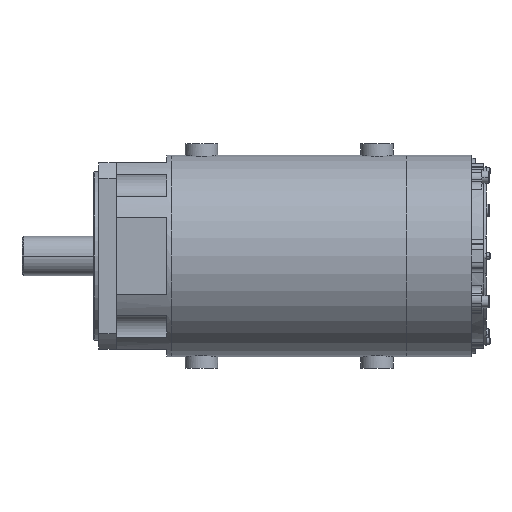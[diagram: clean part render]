
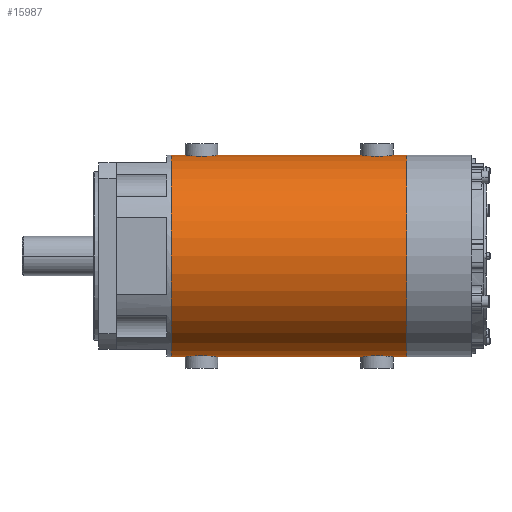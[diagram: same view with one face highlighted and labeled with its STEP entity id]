
A CAD part, front view. The second image highlights one B-rep face of the part: STEP entity #15987.
In plain terms, the highlighted cylindrical face has radius 108 mm (diameter 216 mm), a partial arc.
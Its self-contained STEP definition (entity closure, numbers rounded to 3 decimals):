
#11780=CARTESIAN_POINT('',(120.,0.,108.));
#11781=CARTESIAN_POINT('',(120.,-0.871,108.));
#11782=CARTESIAN_POINT('',(119.786,-2.559,
107.98));
#11783=CARTESIAN_POINT('',(118.758,-5.068,
107.889));
#11784=CARTESIAN_POINT('',(117.162,-7.136,
107.769));
#11785=CARTESIAN_POINT('',(115.096,-8.742,
107.648));
#11786=CARTESIAN_POINT('',(112.586,-9.783,
107.557));
#11787=CARTESIAN_POINT('',(109.994,-10.109,
107.526));
#11788=CARTESIAN_POINT('',(107.412,-9.781,
107.557));
#11789=CARTESIAN_POINT('',(104.899,-8.741,
107.649));
#11790=CARTESIAN_POINT('',(102.821,-7.118,
107.77));
#11791=CARTESIAN_POINT('',(101.239,-5.06,
107.89));
#11792=CARTESIAN_POINT('',(100.214,-2.558,
107.98));
#11793=CARTESIAN_POINT('',(100.,-0.871,108.));
#11794=CARTESIAN_POINT('',(100.,0.,108.));
#11796=CARTESIAN_POINT('',(308.,0.,108.));
#11797=CARTESIAN_POINT('',(308.,-0.871,108.));
#11798=CARTESIAN_POINT('',(307.786,-2.559,
107.98));
#11799=CARTESIAN_POINT('',(306.758,-5.068,
107.889));
#11800=CARTESIAN_POINT('',(305.162,-7.136,
107.769));
#11801=CARTESIAN_POINT('',(303.096,-8.742,
107.648));
#11802=CARTESIAN_POINT('',(300.586,-9.783,
107.557));
#11803=CARTESIAN_POINT('',(297.994,-10.109,
107.526));
#11804=CARTESIAN_POINT('',(295.412,-9.781,
107.557));
#11805=CARTESIAN_POINT('',(292.899,-8.741,
107.649));
#11806=CARTESIAN_POINT('',(290.821,-7.118,
107.77));
#11807=CARTESIAN_POINT('',(289.239,-5.06,
107.89));
#11808=CARTESIAN_POINT('',(288.214,-2.558,
107.98));
#11809=CARTESIAN_POINT('',(288.,-0.871,108.));
#11810=CARTESIAN_POINT('',(288.,0.,108.));
#11812=CARTESIAN_POINT('',(330.,0.,0.));
#11813=DIRECTION('',(1.,0.,0.));
#11814=DIRECTION('',(0.,0.,1.));
#11815=AXIS2_PLACEMENT_3D('',#11812,#11813,#11814);
#11817=DIRECTION('',(-1.,0.,0.));
#11818=VECTOR('',#11817,22.);
#11819=CARTESIAN_POINT('',(330.,0.,-108.));
#11820=LINE('',#11819,#11818);
#11821=CARTESIAN_POINT('',(288.,0.,-108.));
#11822=CARTESIAN_POINT('',(288.,-0.871,-108.));
#11823=CARTESIAN_POINT('',(288.214,-2.557,
-107.98));
#11824=CARTESIAN_POINT('',(289.238,-5.059,
-107.89));
#11825=CARTESIAN_POINT('',(290.821,-7.118,
-107.77));
#11826=CARTESIAN_POINT('',(292.898,-8.74,
-107.649));
#11827=CARTESIAN_POINT('',(295.411,-9.781,
-107.557));
#11828=CARTESIAN_POINT('',(297.995,-10.109,
-107.526));
#11829=CARTESIAN_POINT('',(300.585,-9.783,
-107.557));
#11830=CARTESIAN_POINT('',(303.096,-8.742,
-107.648));
#11831=CARTESIAN_POINT('',(305.162,-7.135,
-107.769));
#11832=CARTESIAN_POINT('',(306.758,-5.068,
-107.889));
#11833=CARTESIAN_POINT('',(307.786,-2.559,
-107.98));
#11834=CARTESIAN_POINT('',(308.,-0.871,-108.));
#11835=CARTESIAN_POINT('',(308.,0.,-108.));
#11837=DIRECTION('',(-1.,0.,0.));
#11838=VECTOR('',#11837,168.);
#11839=CARTESIAN_POINT('',(288.,0.,-108.));
#11840=LINE('',#11839,#11838);
#11841=CARTESIAN_POINT('',(100.,0.,-108.));
#11842=CARTESIAN_POINT('',(100.,-0.871,-108.));
#11843=CARTESIAN_POINT('',(100.214,-2.557,
-107.98));
#11844=CARTESIAN_POINT('',(101.238,-5.059,
-107.89));
#11845=CARTESIAN_POINT('',(102.821,-7.118,
-107.77));
#11846=CARTESIAN_POINT('',(104.898,-8.74,
-107.649));
#11847=CARTESIAN_POINT('',(107.411,-9.781,
-107.557));
#11848=CARTESIAN_POINT('',(109.995,-10.109,
-107.526));
#11849=CARTESIAN_POINT('',(112.585,-9.783,
-107.557));
#11850=CARTESIAN_POINT('',(115.096,-8.742,
-107.648));
#11851=CARTESIAN_POINT('',(117.162,-7.135,
-107.769));
#11852=CARTESIAN_POINT('',(118.758,-5.068,
-107.889));
#11853=CARTESIAN_POINT('',(119.786,-2.559,
-107.98));
#11854=CARTESIAN_POINT('',(120.,-0.871,-108.));
#11855=CARTESIAN_POINT('',(120.,0.,-108.));
#11857=DIRECTION('',(-1.,0.,0.));
#11858=VECTOR('',#11857,22.);
#11859=CARTESIAN_POINT('',(100.,0.,-108.));
#11860=LINE('',#11859,#11858);
#11861=CARTESIAN_POINT('',(78.,0.,0.));
#11862=DIRECTION('',(-1.,0.,0.));
#11863=DIRECTION('',(0.,0.,-1.));
#11864=AXIS2_PLACEMENT_3D('',#11861,#11862,#11863);
#15541=DIRECTION('',(-1.,0.,0.));
#15542=VECTOR('',#15541,22.);
#15543=CARTESIAN_POINT('',(100.,0.,108.));
#15544=LINE('',#15543,#15542);
#15587=DIRECTION('',(-1.,0.,0.));
#15588=VECTOR('',#15587,22.);
#15589=CARTESIAN_POINT('',(330.,0.,108.));
#15590=LINE('',#15589,#15588);
#15607=DIRECTION('',(-1.,0.,0.));
#15608=VECTOR('',#15607,168.);
#15609=CARTESIAN_POINT('',(288.,0.,108.));
#15610=LINE('',#15609,#15608);
#15647=CARTESIAN_POINT('',(330.,0.,-108.));
#15648=CARTESIAN_POINT('',(330.,0.,108.));
#15649=VERTEX_POINT('',#15647);
#15650=VERTEX_POINT('',#15648);
#15651=CARTESIAN_POINT('',(78.,0.,-108.));
#15652=CARTESIAN_POINT('',(78.,0.,108.));
#15653=VERTEX_POINT('',#15651);
#15654=VERTEX_POINT('',#15652);
#15932=VERTEX_POINT('',#11841);
#15933=VERTEX_POINT('',#11855);
#15934=VERTEX_POINT('',#11821);
#15935=VERTEX_POINT('',#11835);
#15940=CARTESIAN_POINT('',(120.,0.,108.));
#15942=VERTEX_POINT('',#15940);
#15944=CARTESIAN_POINT('',(100.,0.,108.));
#15946=VERTEX_POINT('',#15944);
#15948=CARTESIAN_POINT('',(308.,0.,108.));
#15950=VERTEX_POINT('',#15948);
#15952=CARTESIAN_POINT('',(288.,0.,108.));
#15954=VERTEX_POINT('',#15952);
#15956=CARTESIAN_POINT('',(330.,0.,0.));
#15957=DIRECTION('',(-1.,0.,0.));
#15958=DIRECTION('',(0.,0.,-1.));
#15959=AXIS2_PLACEMENT_3D('',#15956,#15957,#15958);
#15960=CYLINDRICAL_SURFACE('',#15959,108.);
#15962=ORIENTED_EDGE('',*,*,#15961,.F.);
#15964=ORIENTED_EDGE('',*,*,#15963,.F.);
#15966=ORIENTED_EDGE('',*,*,#15965,.F.);
#15968=ORIENTED_EDGE('',*,*,#15967,.F.);
#15970=ORIENTED_EDGE('',*,*,#15969,.T.);
#15972=ORIENTED_EDGE('',*,*,#15971,.T.);
#15974=ORIENTED_EDGE('',*,*,#15973,.F.);
#15976=ORIENTED_EDGE('',*,*,#15975,.T.);
#15978=ORIENTED_EDGE('',*,*,#15977,.F.);
#15980=ORIENTED_EDGE('',*,*,#15979,.T.);
#15982=ORIENTED_EDGE('',*,*,#15981,.T.);
#15984=ORIENTED_EDGE('',*,*,#15983,.F.);
#15985=EDGE_LOOP('',(#15962,#15964,#15966,#15968,#15970,#15972,#15974,#15976,
#15978,#15980,#15982,#15984));
#15986=FACE_OUTER_BOUND('',#15985,.F.);
#15987=ADVANCED_FACE('',(#15986),#15960,.T.);
#11795=B_SPLINE_CURVE_WITH_KNOTS('',3,(#11780,#11781,#11782,#11783,#11784,
#11785,#11786,#11787,#11788,#11789,#11790,#11791,#11792,#11793,#11794),
.UNSPECIFIED.,.F.,.F.,(4,1,1,1,1,1,1,1,1,1,1,1,4),(0.,0.083,
0.167,0.25,0.333,0.417,0.5,
0.583,0.667,0.75,0.833,0.917,
1.),.UNSPECIFIED.);
#11811=B_SPLINE_CURVE_WITH_KNOTS('',3,(#11796,#11797,#11798,#11799,#11800,
#11801,#11802,#11803,#11804,#11805,#11806,#11807,#11808,#11809,#11810),
.UNSPECIFIED.,.F.,.F.,(4,1,1,1,1,1,1,1,1,1,1,1,4),(0.,0.083,
0.167,0.25,0.333,0.417,0.5,
0.583,0.667,0.75,0.833,0.917,
1.),.UNSPECIFIED.);
#11816=CIRCLE('',#11815,108.);
#11836=B_SPLINE_CURVE_WITH_KNOTS('',3,(#11821,#11822,#11823,#11824,#11825,
#11826,#11827,#11828,#11829,#11830,#11831,#11832,#11833,#11834,#11835),
.UNSPECIFIED.,.F.,.F.,(4,1,1,1,1,1,1,1,1,1,1,1,4),(0.,0.083,
0.167,0.25,0.333,0.417,0.5,
0.583,0.667,0.75,0.833,0.917,
1.),.UNSPECIFIED.);
#11856=B_SPLINE_CURVE_WITH_KNOTS('',3,(#11841,#11842,#11843,#11844,#11845,
#11846,#11847,#11848,#11849,#11850,#11851,#11852,#11853,#11854,#11855),
.UNSPECIFIED.,.F.,.F.,(4,1,1,1,1,1,1,1,1,1,1,1,4),(0.,0.083,
0.167,0.25,0.333,0.417,0.5,
0.583,0.667,0.75,0.833,0.917,
1.),.UNSPECIFIED.);
#11865=CIRCLE('',#11864,108.);
#15961=EDGE_CURVE('',#15942,#15946,#11795,.T.);
#15963=EDGE_CURVE('',#15954,#15942,#15610,.T.);
#15965=EDGE_CURVE('',#15950,#15954,#11811,.T.);
#15967=EDGE_CURVE('',#15650,#15950,#15590,.T.);
#15969=EDGE_CURVE('',#15650,#15649,#11816,.T.);
#15971=EDGE_CURVE('',#15649,#15935,#11820,.T.);
#15973=EDGE_CURVE('',#15934,#15935,#11836,.T.);
#15975=EDGE_CURVE('',#15934,#15933,#11840,.T.);
#15977=EDGE_CURVE('',#15932,#15933,#11856,.T.);
#15979=EDGE_CURVE('',#15932,#15653,#11860,.T.);
#15981=EDGE_CURVE('',#15653,#15654,#11865,.T.);
#15983=EDGE_CURVE('',#15946,#15654,#15544,.T.);
